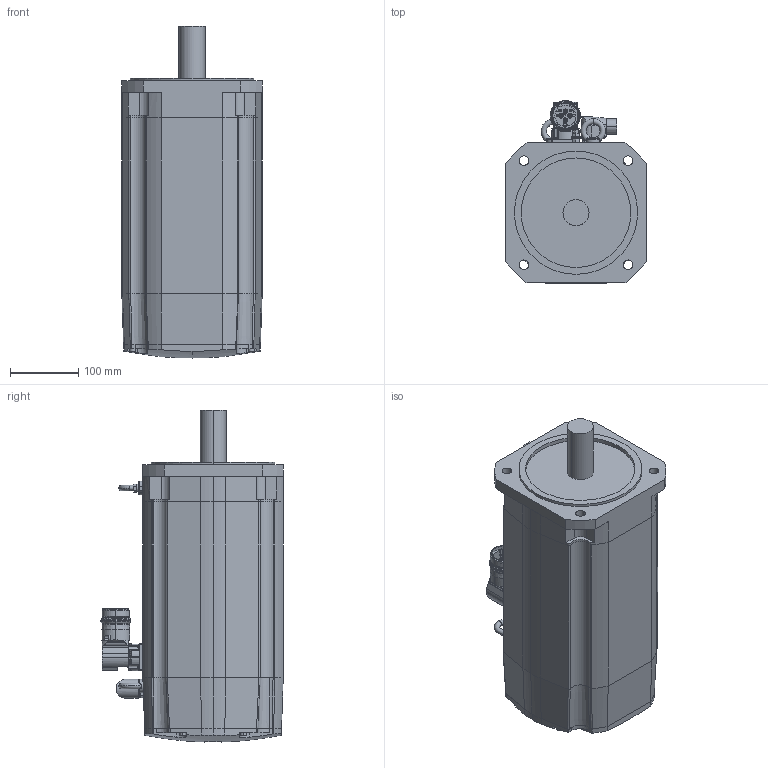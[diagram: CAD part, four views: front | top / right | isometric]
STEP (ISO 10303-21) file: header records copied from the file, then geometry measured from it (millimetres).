
FILE_DESCRIPTION (( 'STEP AP214' ), '1' );
FILE_NAME ('SH32052x0xA2100.STEP', '2013-11-29T13:12:43', ( 'Windows User' ), ( 'Schneider-Electric' ), 'SwSTEP 2.0', 'SolidWorks 2010', '' );
FILE_SCHEMA (( 'AUTOMOTIVE_DESIGN' ));
Length unit declared in the file: millimetre
Products named in the file (9): 1-100011024_K-FLANSCH SH205X_000_Flansch mit Welle ohne Passfedernut; 1-100011023_K-GEHÄUSE SH3-205X_000_Gehäuse stack 2 ohne Bremse; 1-100011025_K-LAGERSCHILD SH205X_000; 1-100011027_K-DECKEL SH205_000; 1-100009587_K-ERDUNGSBOLZEN M6_VM1; Ringschraube DIN 580 M 8     0000019855011; K-ENCODER-CONINVERS-ABGEW_ENCODER-CONINVERS-ABGEWINKELT_000_Single- MultiTurn; 1-100010211_POWER M40 ABGEWINKELT VEREINFACHT_000_ohne Bremse; SH32052x0xA2100
Assembly tree (9 placements, depth 2):
  SH32052x0xA2100
    1-100011025_K-LAGERSCHILD SH205X_000
    Ringschraube DIN 580 M 8     0000019855011  x2
    K-ENCODER-CONINVERS-ABGEW_ENCODER-CONINVERS-ABGEWINKELT_000_Single- MultiTurn
    1-100010211_POWER M40 ABGEWINKELT VEREINFACHT_000_ohne Bremse
    1-100011024_K-FLANSCH SH205X_000_Flansch mit Welle ohne Passfedernut
    1-100011023_K-GEHÄUSE SH3-205X_000_Gehäuse stack 2 ohne Bremse
    1-100009587_K-ERDUNGSBOLZEN M6_VM1
    1-100011027_K-DECKEL SH205_000
Bounding box: 205 x 266.5 x 484.83 mm (x, y, z)
Volume: 14368713.2 mm3; surface area: 632312.8 mm2
Topology: 9 solids, 9 shells, 776 faces, 1955 edges, 1253 vertices
Faces by surface type: cylinder 321, plane 304, bspline 74, cone 45, torus 28, sphere 4
Entity records: 30253 total; most frequent: CARTESIAN_POINT 8018, DIRECTION 3828, ORIENTED_EDGE 3746, EDGE_CURVE 1873, AXIS2_PLACEMENT_3D 1471, VERTEX_POINT 1214, LINE 886, VECTOR 886
